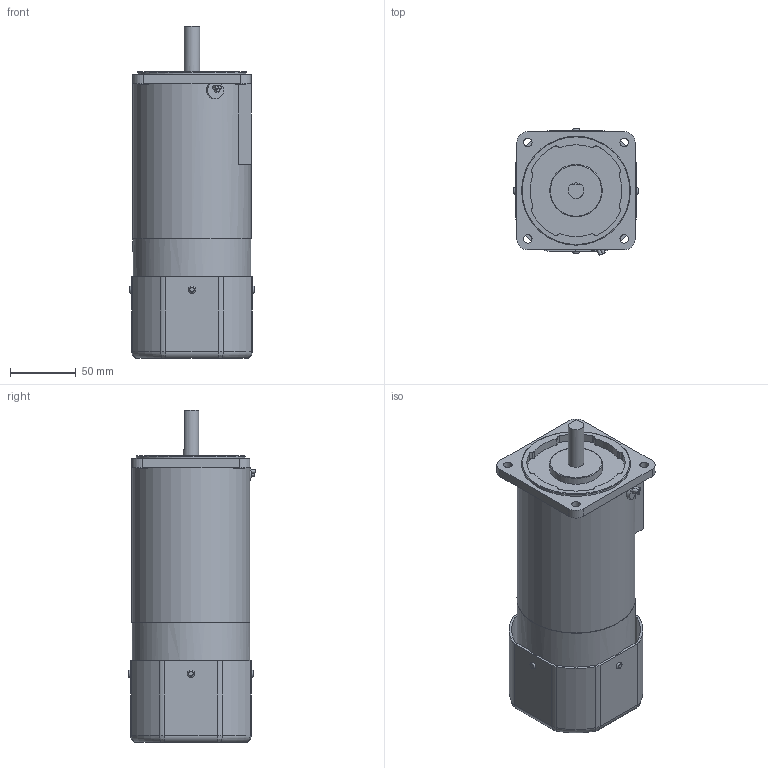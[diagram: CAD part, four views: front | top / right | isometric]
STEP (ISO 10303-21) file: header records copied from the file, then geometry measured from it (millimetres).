
FILE_DESCRIPTION((''),'2;1');
FILE_NAME('E:\2공장-도면\3D\표준형 3D(민규)\step file\D\K9RS90Fㅁ-D.stp','2014-11-17T11:05:28',('AHN'),(''),'Autodesk Inventor 2012','Autodesk Inventor 2012','');
FILE_SCHEMA(('CONFIG_CONTROL_DESIGN'));
Length unit declared in the file: millimetre
Products named in the file (1): K9RS90Fㅁ-D
Bounding box: 95 x 96.71 x 253 mm (x, y, z)
Volume: 1329972.6 mm3; surface area: 122041.3 mm2
Topology: 1 solids, 1 shells, 239 faces, 598 edges, 368 vertices
Faces by surface type: cylinder 121, plane 72, torus 38, bspline 8
Full cylindrical faces by diameter (mm): 6.5 x4, 8 x4, 12 x1, 40 x1, 83 x1, 89.8 x1, 90 x2
Entity records: 7716 total; most frequent: CARTESIAN_POINT 1990, DIRECTION 1233, ORIENTED_EDGE 1138, EDGE_CURVE 569, AXIS2_PLACEMENT_3D 489, VERTEX_POINT 359, EDGE_LOOP 307, CIRCLE 257
